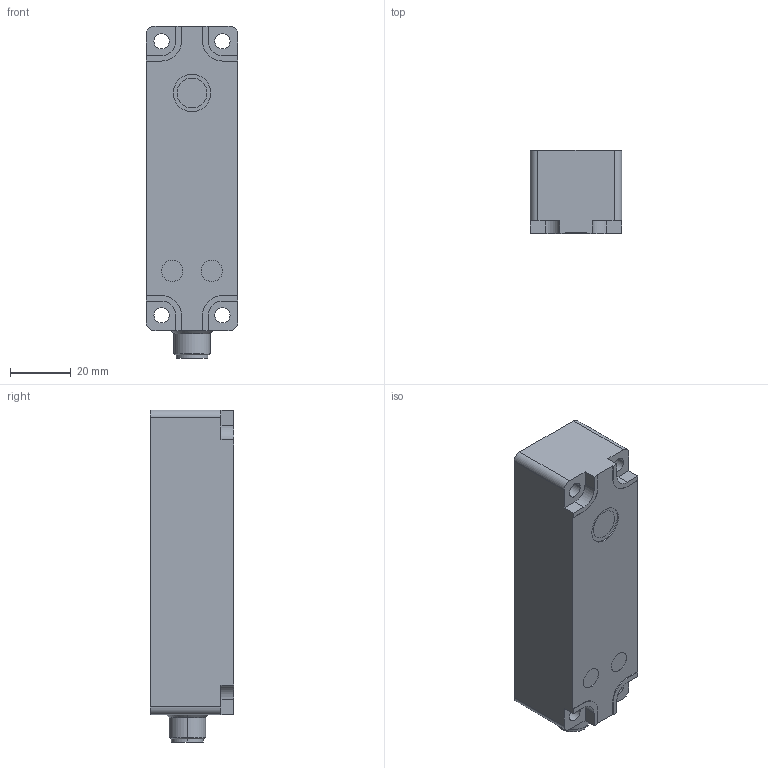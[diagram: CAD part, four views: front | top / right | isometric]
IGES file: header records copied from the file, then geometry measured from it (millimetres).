
Global section: file name: No Iges File Name specified; native system: AutoDesk Inventor R10; preprocessor: AutoDesk Inventor Iges Exporter R10; author: No Author specified; organization: No Organization specified; date: 20070418.171829; units: millimetre
Bounding box: 30 x 27.4 x 109 mm (x, y, z)
Volume: 78817.1 mm3; surface area: 14930.8 mm2
Topology: 1 solids, 1 shells, 149 faces, 386 edges, 235 vertices
Faces by surface type: plane 51, revolution 45, cylinder 29, bspline 10, sphere 10, cone 4
